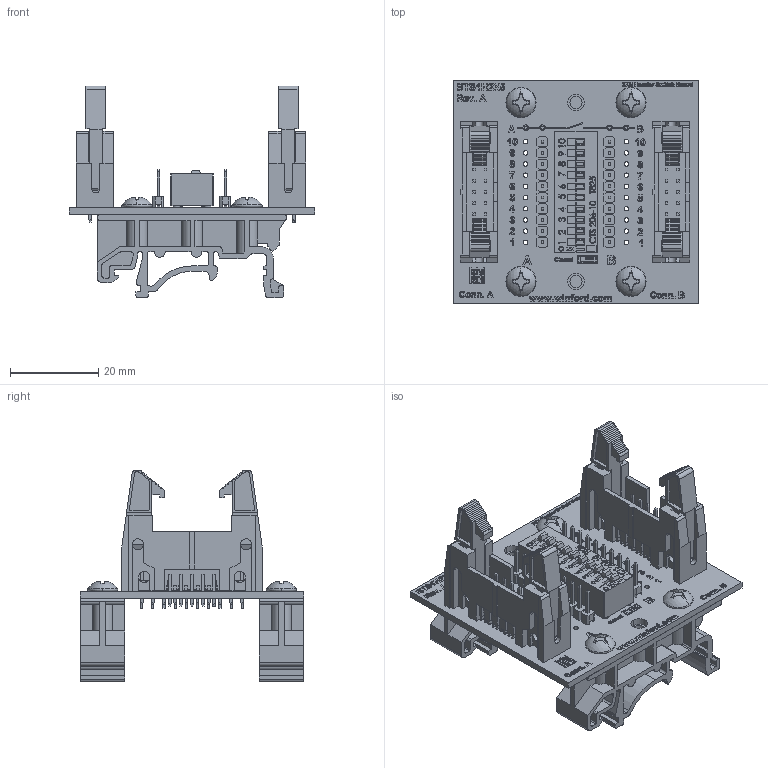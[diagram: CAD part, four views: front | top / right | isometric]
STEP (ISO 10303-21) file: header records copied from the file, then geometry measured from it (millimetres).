
FILE_DESCRIPTION (( 'STEP AP214' ), '1' );
FILE_NAME ('bts1h2x5-din_rev_a.step', '2022-01-06T13:26:20', ( '' ), ( '' ), 'SwSTEP 2.0', 'SolidWorks 2018', '' );
FILE_SCHEMA (( 'AUTOMOTIVE_DESIGN' ));
Length unit declared in the file: inch
Products named in the file (7): Dual Row Header 2x5; BTS1H2X5_PCB; bts1h2x5-din_rev_a; DIP Switch 10 pin; Screw_SCSMPP-6-0.375_90184A127; dinm01; single row header- 10 position
Assembly tree (12 placements, depth 2):
  bts1h2x5-din_rev_a
    BTS1H2X5_PCB
    Dual Row Header 2x5  x2
    DIP Switch 10 pin
    single row header- 10 position  x2
    dinm01  x2
    Screw_SCSMPP-6-0.375_90184A127  x4
Bounding box: 55.88 x 50.8 x 48.16 mm (x, y, z)
Volume: 16697.1 mm3; surface area: 29121.8 mm2
Topology: 89 solids, 89 shells, 5512 faces, 14524 edges, 9404 vertices
Faces by surface type: plane 3741, cylinder 884, bspline 835, cone 36, sphere 8, torus 8
Entity records: 208639 total; most frequent: CARTESIAN_POINT 69789, ORIENTED_EDGE 21350, DIRECTION 16579, EDGE_CURVE 10675, LINE 7833, VECTOR 7833, VERTEX_POINT 6970, EDGE_LOOP 4487
